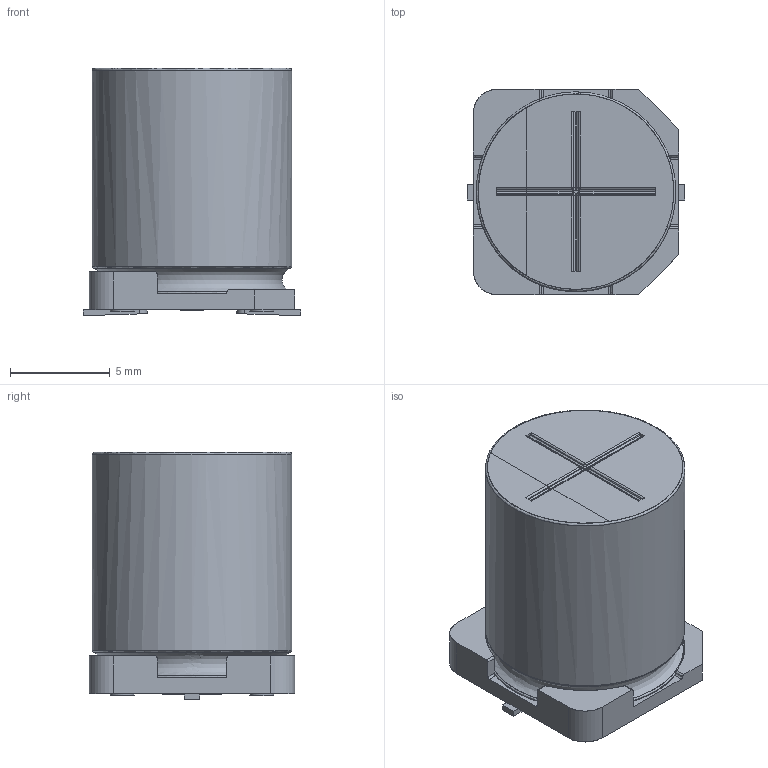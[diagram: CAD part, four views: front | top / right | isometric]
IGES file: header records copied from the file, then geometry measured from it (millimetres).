
Start section: JAMA-IS VERSION  1.0
Bounding box: 10.9 x 10.3 x 12.4 mm (x, y, z)
Surface area: 831.7 mm2 (no closed solid volume)
Topology: 0 solids, 0 shells, 134 faces, 1310 edges, 1290 vertices
Faces by surface type: bspline 134
